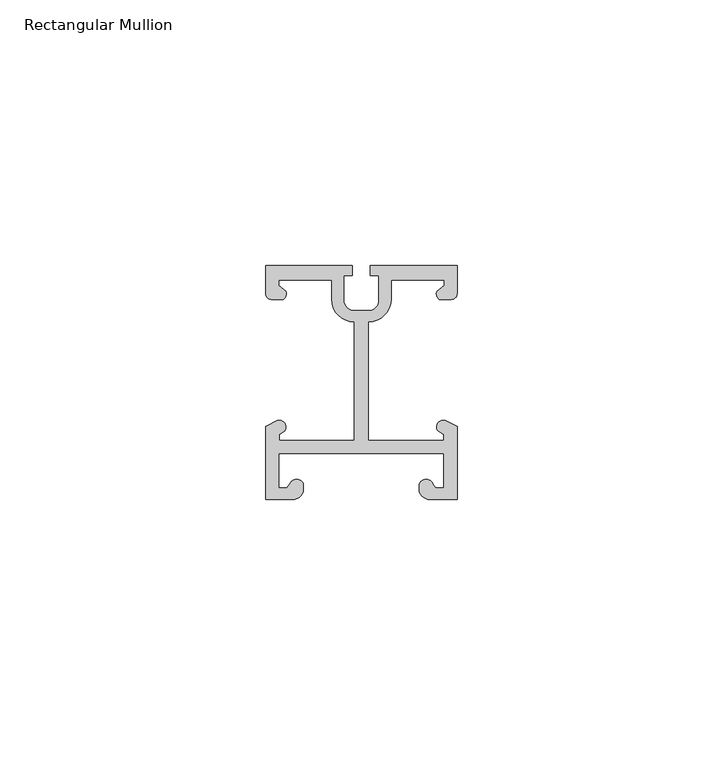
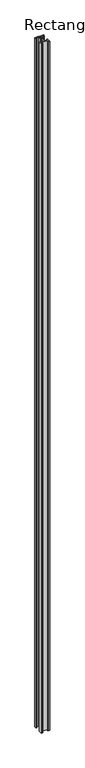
"""IFC4 building model written with IfcOpenShell, lengths in millimetres: member geometry, Rectangular Mullion : NLRS_21_CWM_drager LD.0440_Storax."""

from ifc_helpers import new_model, si_unit, point, frame, frame_2d, origin, place, context, project, spatial, polyline, circle_curve, trimmed, segment, composite_curve, outline, extrude, source, transform, mapped, element, save


def rectangular_mullion_2c867e25(model_context):
    return source(origin(), model_context, "Body", "SweptSolid", [
        extrude(outline(composite_curve([segment(trimmed(circle_curve(frame_2d((16.9392812, -6.3052023)), 1.0607188), [point((18.0, -6.3052023))], [point((16.9392812, -7.3659211))], False, "CARTESIAN"), True, "CONTINUOUS"), segment(polyline([(16.9392812, -7.3659211), (14.6710832, -7.3659211)]), True, "CONTINUOUS"), segment(trimmed(circle_curve(frame_2d((15.4763893, -6.2941519)), 1.3405996), [point((14.6710832, -7.3659211))], [point((14.2430891, -5.7686256))], False, "CARTESIAN"), True, "CONTINUOUS"), segment(polyline([(14.2430891, -5.7686256), (15.5853554, -4.7934121), (15.5853554, -3.7019722), (5.5853554, -3.7019722), (5.5853554, -7.3659211)]), True, "CONTINUOUS"), segment(trimmed(circle_curve(frame_2d((1.3429061, -7.3659211)), 4.2424493), [point((5.5853554, -7.3659211))], [point((1.3429061, -11.6083704))], False, "CARTESIAN"), True, "CONTINUOUS"), segment(polyline([(1.3429061, -11.6083704), (1.3429061, -33.9484561), (15.4786691, -33.9484561), (15.4786691, -32.7842379), (14.4373991, -32.1830604)]), True, "CONTINUOUS"), segment(trimmed(circle_curve(frame_2d((15.45859, -31.4212831)), 1.2740234), [point((14.4373991, -32.1830604))], [point((15.8206583, -30.1997913))], False, "CARTESIAN"), True, "CONTINUOUS"), segment(polyline([(15.8206583, -30.1997913), (18.0, -31.2742706), (18.0, -45.0), (12.4869164, -45.0)]), True, "CONTINUOUS"), segment(trimmed(circle_curve(frame_2d((12.9265254, -42.8995012)), 2.1460082), [point((12.4869164, -45.0))], [point((10.9194758, -43.6591742))], False, "CARTESIAN"), True, "CONTINUOUS"), segment(polyline([(10.9194758, -43.6591742), (10.9194758, -42.1270559)]), True, "CONTINUOUS"), segment(trimmed(circle_curve(frame_2d((12.1860343, -42.6211046)), 1.3595053), [point((10.9194758, -42.1270559))], [point((13.4525929, -42.1270559))], False, "CARTESIAN"), True, "CONTINUOUS"), segment(polyline([(13.4525929, -42.1270559), (14.0397402, -42.8785701), (15.5328091, -42.8785701), (15.5328091, -36.3732865), (-15.5328091, -36.3732865), (-15.5328091, -42.8785701), (-14.0397402, -42.8785701), (-13.4525929, -42.1270559)]), True, "CONTINUOUS"), segment(trimmed(circle_curve(frame_2d((-12.1860343, -42.6211046)), 1.3595053), [point((-13.4525929, -42.1270559))], [point((-10.9194758, -42.1270559))], False, "CARTESIAN"), True, "CONTINUOUS"), segment(polyline([(-10.9194758, -42.1270559), (-10.9194758, -43.6591742)]), True, "CONTINUOUS"), segment(trimmed(circle_curve(frame_2d((-12.9265254, -42.8995012)), 2.1460082), [point((-10.9194758, -43.6591742))], [point((-12.4869164, -45.0))], False, "CARTESIAN"), True, "CONTINUOUS"), segment(polyline([(-12.4869164, -45.0), (-18.0, -45.0), (-18.0, -31.2742706), (-15.8206583, -30.1997913)]), True, "CONTINUOUS"), segment(trimmed(circle_curve(frame_2d((-15.45859, -31.4212831)), 1.2740234), [point((-15.8206583, -30.1997913))], [point((-14.4373991, -32.1830604))], False, "CARTESIAN"), True, "CONTINUOUS"), segment(polyline([(-14.4373991, -32.1830604), (-15.4786691, -32.7842379), (-15.4786691, -33.9484561), (-1.3429061, -33.9484561), (-1.3429061, -11.6083704)]), True, "CONTINUOUS"), segment(trimmed(circle_curve(frame_2d((-1.3429061, -7.3659211)), 4.2424493), [point((-1.3429061, -11.6083704))], [point((-5.5853554, -7.3659211))], False, "CARTESIAN"), True, "CONTINUOUS"), segment(polyline([(-5.5853554, -7.3659211), (-5.5853554, -3.7019722), (-15.5853554, -3.7019722), (-15.5853554, -4.7934121), (-14.2430891, -5.7686256)]), True, "CONTINUOUS"), segment(trimmed(circle_curve(frame_2d((-15.4763893, -6.2941519)), 1.3405996), [point((-14.2430891, -5.7686256))], [point((-14.6710832, -7.3659211))], False, "CARTESIAN"), True, "CONTINUOUS"), segment(polyline([(-14.6710832, -7.3659211), (-16.9392812, -7.3659211)]), True, "CONTINUOUS"), segment(trimmed(circle_curve(frame_2d((-16.9392812, -6.3052023)), 1.0607188), [point((-16.9392812, -7.3659211))], [point((-18.0, -6.3052023))], False, "CARTESIAN"), True, "CONTINUOUS"), segment(polyline([(-18.0, -6.3052023), (-18.0, -1.0), (-1.7007911, -1.0), (-1.7007911, -2.8614608), (-3.3098873, -2.8614608), (-3.3098873, -7.4387929)]), True, "CONTINUOUS"), segment(trimmed(circle_curve(frame_2d((-1.2477445, -7.4387929)), 2.0621428), [point((-3.3098873, -7.4387929))], [point((-1.2477445, -9.5009356))], True, "CARTESIAN"), True, "CONTINUOUS"), segment(polyline([(-1.2477445, -9.5009356), (1.2477445, -9.5009356)]), True, "CONTINUOUS"), segment(trimmed(circle_curve(frame_2d((1.2477445, -7.4387929)), 2.0621428), [point((1.2477445, -9.5009356))], [point((3.3098873, -7.4387929))], True, "CARTESIAN"), True, "CONTINUOUS"), segment(polyline([(3.3098873, -7.4387929), (3.3098873, -2.8614608), (1.7007911, -2.8614608), (1.7007911, -1.0), (18.0, -1.0), (18.0, -6.3052023)]), True, "CONTINUOUS")], self_intersect=False)), frame((0.0, 0.0, -3000.0), z_axis=(0.0, 0.0, 1.0), x_axis=(1.0, 0.0, 0.0)), (0.0, 0.0, 1.0), 3000.0),
    ])


if __name__ == "__main__":
    model = new_model("IFC4")
    model_context = context("Model", 3, world=origin())
    ifc_project = project(units=[si_unit("LENGTHUNIT", "METRE", prefix="MILLI")], contexts=[model_context])
    site = spatial("IfcSite", under=ifc_project)
    building = spatial("IfcBuilding", under=site)
    placement = place(None, origin())
    rectangular_mullion_shape = rectangular_mullion_2c867e25(model_context)
    element("IfcMember", 1, ObjectType="Rectangular Mullion : NLRS_21_CWM_drager LD.0440_Storax", at=placement, inside=building, context=model_context, shape_type="MappedRepresentation", body=[
        mapped(rectangular_mullion_shape, transform((0.0, 0.0, 0.0), x_axis=(1.0, 0.0, 0.0), y_axis=(0.0, 1.0, 0.0), z_axis=(0.0, 0.0, 1.0))),
    ])
    save(model, "model.ifc")
